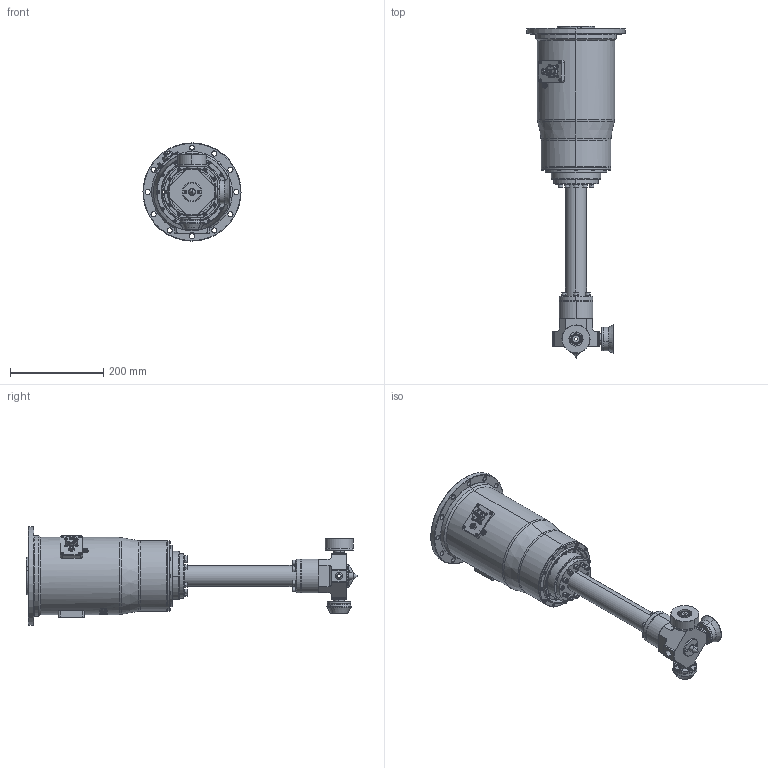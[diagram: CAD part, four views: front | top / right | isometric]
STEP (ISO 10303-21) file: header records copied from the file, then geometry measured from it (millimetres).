
FILE_DESCRIPTION (( 'STEP AP214' ), '1' );
FILE_NAME ('1¡¢ECM1B-2000-003-000¸¡¶¯Ä£¿éÓë¹ö±ßÍ·×', '2025-09-30T05:14:30', ( 'selfweld_user' ), ( '' ), 'SwSTEP 2.0', 'SolidWorks 2022', '' );
FILE_SCHEMA (( 'AUTOMOTIVE_DESIGN' ));
Length unit declared in the file: millimetre
Products named in the file (1): 1、ECM1B-2000-003-000浮动模块与滚边头组件装配体±_í·×é_t×°__ì__à_¨a_¤_á¨|_t_á____¨__
Bounding box: 209.99 x 710.25 x 210 mm (x, y, z)
Surface area: 410406.7 mm2 (no closed solid volume)
Topology: 0 solids, 167 shells, 1188 faces, 4828 edges, 3738 vertices
Faces by surface type: plane 455, cylinder 422, cone 158, torus 130, bspline 23
Entity records: 90352 total; most frequent: CARTESIAN_POINT 44480, ORIENTED_EDGE 6770, EDGE_CURVE 4822, DIRECTION 4447, VERTEX_POINT 3738, B_SPLINE_CURVE_WITH_KNOTS 3365, AXIS2_PLACEMENT_3D 1845, EDGE_LOOP 1535
